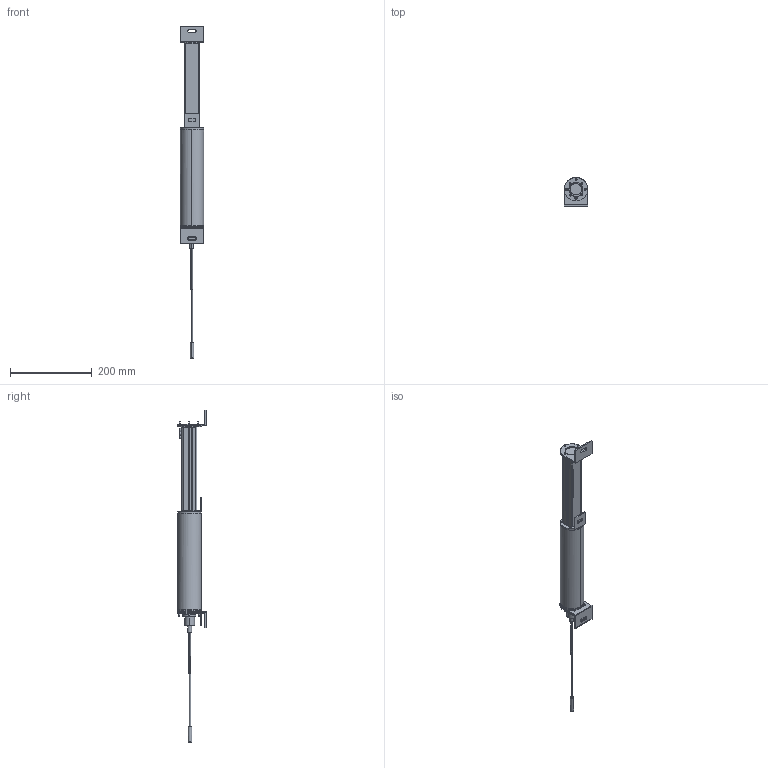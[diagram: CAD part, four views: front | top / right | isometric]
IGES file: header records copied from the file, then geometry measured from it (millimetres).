
Global section: file name: C:\ACADFILES\MG_PYLONS\CUSTOMER_FILES\MG-16-PYLON_3D_SMB.igs; native system: AutoCAD-18.2s (LMS Tech) (Microsoft Windows NT Version 6.1 (x86)); preprocessor: Autodesk IGES Translator Mechanical Desktop 2011 (Feb 18 2011) from Autodesk, Inc.; date: 20140328.141144; units: inch
Bounding box: 57.29 x 69.85 x 813.17 mm (x, y, z)
Surface area: 342331.4 mm2 (no closed solid volume)
Topology: 0 solids, 0 shells, 1800 faces, 9329 edges, 9504 vertices
Faces by surface type: bspline 1800
